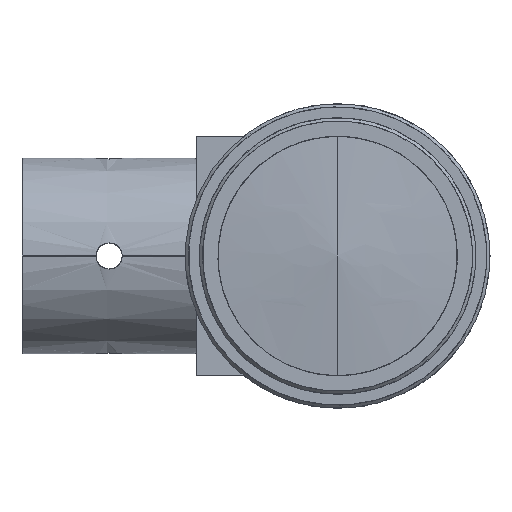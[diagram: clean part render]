
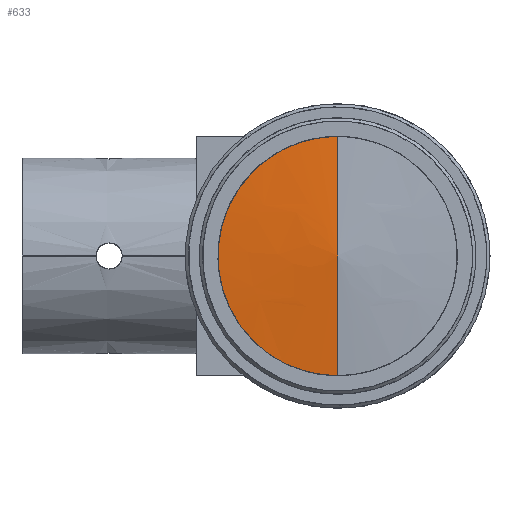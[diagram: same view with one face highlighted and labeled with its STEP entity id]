
A CAD part, left-side view. The second image highlights one B-rep face of the part: STEP entity #633.
In plain terms, the highlighted face is a revolution surface.
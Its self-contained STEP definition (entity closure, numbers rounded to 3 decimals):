
#633 = ADVANCED_FACE('',(#634),#649,.T.);
#634 = FACE_BOUND('',#635,.T.);
#635 = EDGE_LOOP('',(#636,#662,#678,#693));
#636 = ORIENTED_EDGE('',*,*,#637,.F.);
#637 = EDGE_CURVE('',#638,#640,#642,.T.);
#638 = VERTEX_POINT('',#639);
#639 = CARTESIAN_POINT('',(-66.228,8.961,
    -6.379));
#640 = VERTEX_POINT('',#641);
#641 = CARTESIAN_POINT('',(-66.228,0.,
    -11.));
#642 = SURFACE_CURVE('',#643,(#648),.PCURVE_S1.);
#643 = CIRCLE('',#644,11.);
#644 = AXIS2_PLACEMENT_3D('',#645,#646,#647);
#645 = CARTESIAN_POINT('',(-66.228,0.,
    0.));
#646 = DIRECTION('',(-1.,0.,0.));
#647 = DIRECTION('',(0.,0.815,-0.58)
  );
#648 = PCURVE('',#649,#657);
#649 = SURFACE_OF_REVOLUTION('',#650,#654);
#650 = LINE('',#651,#652);
#651 = CARTESIAN_POINT('',(-67.119,0.,0.));
#652 = VECTOR('',#653,1.);
#653 = DIRECTION('',(0.081,0.,
    -0.997));
#654 = AXIS1_PLACEMENT('',#655,#656);
#655 = CARTESIAN_POINT('',(-1066.185,0.,0.));
#656 = DIRECTION('',(-1.,0.,0.));
#657 = DEFINITIONAL_REPRESENTATION('',(#658),#661);
#658 = B_SPLINE_CURVE_WITH_KNOTS('',1,(#659,#660),.UNSPECIFIED.,.F.,.F.,
  (2,2),(0.,0.952),.PIECEWISE_BEZIER_KNOTS.);
#659 = CARTESIAN_POINT('',(5.331,11.036));
#660 = CARTESIAN_POINT('',(6.283,11.036));
#661 = ( GEOMETRIC_REPRESENTATION_CONTEXT(2) 
PARAMETRIC_REPRESENTATION_CONTEXT() REPRESENTATION_CONTEXT('2D SPACE',''
  ) );
#662 = ORIENTED_EDGE('',*,*,#663,.F.);
#663 = EDGE_CURVE('',#664,#638,#666,.T.);
#664 = VERTEX_POINT('',#665);
#665 = CARTESIAN_POINT('',(-66.228,0.,11.));
#666 = SURFACE_CURVE('',#667,(#672),.PCURVE_S1.);
#667 = CIRCLE('',#668,11.);
#668 = AXIS2_PLACEMENT_3D('',#669,#670,#671);
#669 = CARTESIAN_POINT('',(-66.228,0.,0.));
#670 = DIRECTION('',(-1.,0.,0.));
#671 = DIRECTION('',(0.,0.,1.));
#672 = PCURVE('',#649,#673);
#673 = DEFINITIONAL_REPRESENTATION('',(#674),#677);
#674 = B_SPLINE_CURVE_WITH_KNOTS('',1,(#675,#676),.UNSPECIFIED.,.F.,.F.,
  (2,2),(0.,2.189),.PIECEWISE_BEZIER_KNOTS.);
#675 = CARTESIAN_POINT('',(3.142,11.036));
#676 = CARTESIAN_POINT('',(5.331,11.036));
#677 = ( GEOMETRIC_REPRESENTATION_CONTEXT(2) 
PARAMETRIC_REPRESENTATION_CONTEXT() REPRESENTATION_CONTEXT('2D SPACE',''
  ) );
#678 = ORIENTED_EDGE('',*,*,#679,.F.);
#679 = EDGE_CURVE('',#680,#664,#682,.T.);
#680 = VERTEX_POINT('',#681);
#681 = CARTESIAN_POINT('',(-67.119,0.,0.));
#682 = SURFACE_CURVE('',#683,(#687),.PCURVE_S1.);
#683 = LINE('',#684,#685);
#684 = CARTESIAN_POINT('',(-67.119,0.,0.));
#685 = VECTOR('',#686,1.);
#686 = DIRECTION('',(0.081,0.,0.997));
#687 = PCURVE('',#649,#688);
#688 = DEFINITIONAL_REPRESENTATION('',(#689),#692);
#689 = B_SPLINE_CURVE_WITH_KNOTS('',1,(#690,#691),.UNSPECIFIED.,.F.,.F.,
  (2,2),(0.,11.036),.PIECEWISE_BEZIER_KNOTS.);
#690 = CARTESIAN_POINT('',(3.142,0.));
#691 = CARTESIAN_POINT('',(3.142,11.036));
#692 = ( GEOMETRIC_REPRESENTATION_CONTEXT(2) 
PARAMETRIC_REPRESENTATION_CONTEXT() REPRESENTATION_CONTEXT('2D SPACE',''
  ) );
#693 = ORIENTED_EDGE('',*,*,#694,.F.);
#694 = EDGE_CURVE('',#640,#680,#695,.T.);
#695 = SURFACE_CURVE('',#696,(#700),.PCURVE_S1.);
#696 = LINE('',#697,#698);
#697 = CARTESIAN_POINT('',(-66.228,0.,-11.));
#698 = VECTOR('',#699,1.);
#699 = DIRECTION('',(-0.081,0.,0.997));
#700 = PCURVE('',#649,#701);
#701 = DEFINITIONAL_REPRESENTATION('',(#702),#705);
#702 = B_SPLINE_CURVE_WITH_KNOTS('',1,(#703,#704),.UNSPECIFIED.,.F.,.F.,
  (2,2),(0.,11.036),.PIECEWISE_BEZIER_KNOTS.);
#703 = CARTESIAN_POINT('',(6.283,11.036));
#704 = CARTESIAN_POINT('',(6.283,0.));
#705 = ( GEOMETRIC_REPRESENTATION_CONTEXT(2) 
PARAMETRIC_REPRESENTATION_CONTEXT() REPRESENTATION_CONTEXT('2D SPACE',''
  ) );
